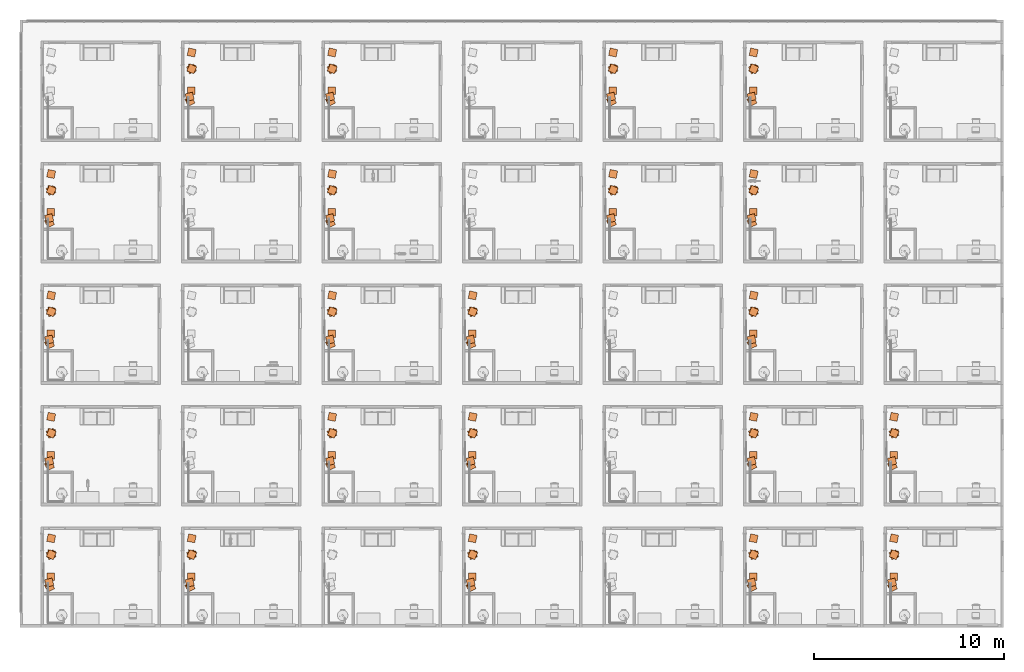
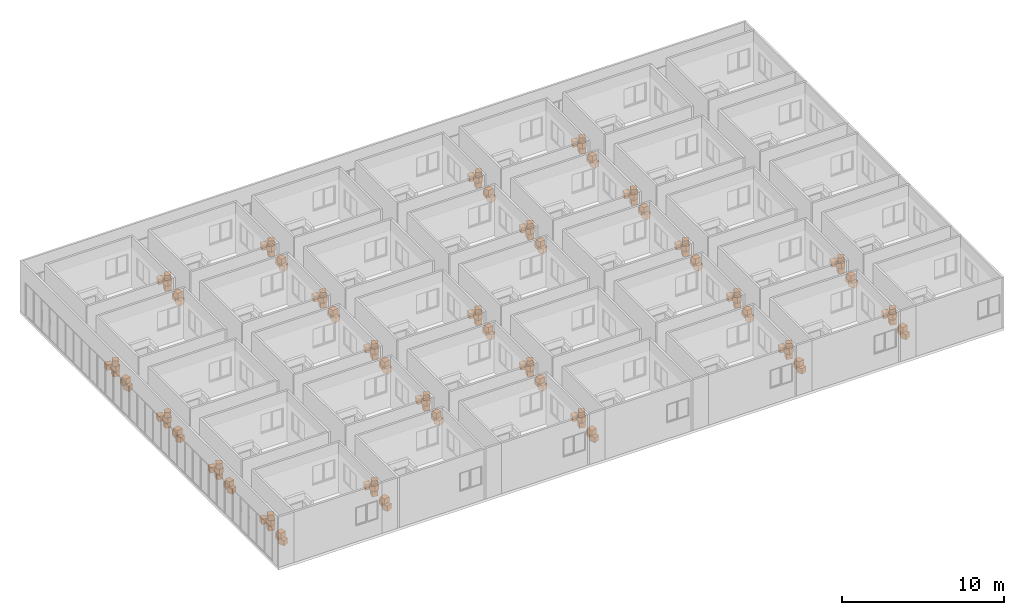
# One storey, part 71 of 71: 22 proxies.
"""IFC4 building model written with IfcOpenShell, lengths in centimetres."""

from ifc_helpers import new_model, entity, si_unit, converted_unit, derived_unit, direction, frame, origin, place, context, subcontext, project, spatial, indexed_curve, outline, extrude, source, transform, mapped, material, type_object, type_shapes, element, save


model = new_model("IFC4")

# Units and contexts
model_context = context("Model", 3, precision=0.001, world=origin(), true_north=direction((6.123233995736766e-17, 1.0)))
body_context = subcontext(model_context, "Body", "Model", "MODEL_VIEW")
ifc_project = project(units=[si_unit("LENGTHUNIT", "METRE", prefix="CENTI"), si_unit("AREAUNIT", "SQUARE_METRE"), si_unit("VOLUMEUNIT", "CUBIC_METRE"), derived_unit("THERMALTRANSMITTANCEUNIT", [(si_unit("MASSUNIT", "GRAM", prefix="KILO"), 1), (si_unit("THERMODYNAMICTEMPERATUREUNIT", "KELVIN"), -1), (si_unit("TIMEUNIT", "SECOND"), -3)]), converted_unit("PLANEANGLEUNIT", "DEGREE", entity("IfcPlaneAngleMeasure", 0.017453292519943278), si_unit("PLANEANGLEUNIT", "RADIAN"), dimensions=[0, 0, 0, 0, 0, 0, 0]), derived_unit("MASSDENSITYUNIT", [(si_unit("MASSUNIT", "GRAM", prefix="KILO"), 1), (si_unit("LENGTHUNIT", "METRE"), -3)]), derived_unit("VAPORPERMEABILITYUNIT", [(si_unit("LENGTHUNIT", "METRE"), -1), (si_unit("TIMEUNIT", "SECOND"), 1)]), derived_unit("USERDEFINED", [(si_unit("MASSUNIT", "GRAM", prefix="KILO"), 1), (si_unit("TIMEUNIT", "SECOND"), -3), (si_unit("LENGTHUNIT", "METRE"), 3), (si_unit("ELECTRICCURRENTUNIT", "AMPERE"), -2)]), derived_unit("SPECIFICHEATCAPACITYUNIT", [(si_unit("THERMODYNAMICTEMPERATUREUNIT", "KELVIN"), -1), (si_unit("LENGTHUNIT", "METRE"), 2), (si_unit("TIMEUNIT", "SECOND"), -2)]), derived_unit("THERMALCONDUCTANCEUNIT", [(si_unit("MASSUNIT", "GRAM", prefix="KILO"), 1), (si_unit("THERMODYNAMICTEMPERATUREUNIT", "KELVIN"), -1), (si_unit("TIMEUNIT", "SECOND"), -3), (si_unit("LENGTHUNIT", "METRE"), 1)]), si_unit("PRESSUREUNIT", "PASCAL"), derived_unit("MODULUSOFELASTICITYUNIT", [(si_unit("MASSUNIT", "GRAM", prefix="KILO"), 1), (si_unit("LENGTHUNIT", "METRE"), -1), (si_unit("TIMEUNIT", "SECOND"), -2)]), derived_unit("THERMALEXPANSIONCOEFFICIENTUNIT", [(si_unit("THERMODYNAMICTEMPERATUREUNIT", "KELVIN"), -1)])], contexts=[model_context])

# Site, building, storey, space
site_placement = place(None, origin())
site = spatial("IfcSite", under=ifc_project, at=site_placement, Name="Default", CompositionType="ELEMENT")
building_placement = place(site_placement, origin())
building = spatial("IfcBuilding", under=site, at=building_placement, Name="IDS Escape Game Building", CompositionType="ELEMENT")
storey_placement = place(building_placement, frame((0.0, 0.0, 1200.0)))
storey = spatial("IfcBuildingStorey", under=building, at=storey_placement, Name="03_Third Floor", CompositionType="ELEMENT", Elevation=1200.0)
space_1_placement = place(storey_placement, origin())
space_1 = spatial("IfcSpace", under=storey, at=space_1_placement, Name="112", CompositionType="ELEMENT", PredefinedType="NOTDEFINED")

# Proxy
ifc_material = material(Name="<Unnamed>")
building_element_proxy_type = type_object("IfcBuildingElementProxyType", Name="Moving Boxes:Moving Boxes", PredefinedType="NOTDEFINED", material=ifc_material)
shared_shape = source(origin(), body_context, "Body", "SweptSolid", [
    extrude(outline(indexed_curve([(-20.0, -20.0), (20.0, -20.0), (20.0, 20.0), (-20.0, 20.0), (-20.0, -20.0)], self_intersect=False)), frame((-129.4888892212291, -20.0, 0.0), z_axis=(0.0, 0.0, 1.0), x_axis=(-1.0, 0.0, 0.0)), (0.0, 0.0, 1.0), 40.0),
    extrude(outline(indexed_curve([(-20.0, -20.0), (20.00000000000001, -19.999999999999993), (20.0, 20.0), (-20.00000000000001, 19.999999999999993), (-20.0, -20.0)], self_intersect=False)), frame((-75.45547766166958, -26.102318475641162, 0.0), z_axis=(0.0, 0.0, 1.0), x_axis=(-0.906307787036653, -0.422618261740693, 0.0)), (0.0, 0.0, 1.0), 39.99999999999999),
    extrude(outline(indexed_curve([(-20.00000000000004, -19.999999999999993), (20.00000000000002, -19.999999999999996), (20.000000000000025, 19.999999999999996), (-20.000000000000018, 20.000000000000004), (-20.00000000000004, -19.999999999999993)], self_intersect=False)), frame((-98.66287120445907, -27.650524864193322, 40.0), z_axis=(0.0, 0.0, 1.0), x_axis=(-0.970295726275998, -0.24192189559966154, 0.0)), (0.0, 0.0, 1.0), 39.99999999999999),
    extrude(outline(indexed_curve([(-20.000000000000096, -20.00000000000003), (20.000000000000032, -20.000000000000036), (20.000000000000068, 20.000000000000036), (-20.00000000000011, 20.00000000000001), (-20.000000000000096, -20.00000000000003)], self_intersect=False)), frame((-247.73174870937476, -17.18153286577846, 0.0), z_axis=(0.0, 0.0, 1.0), x_axis=(-0.9794785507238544, 0.2015484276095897, 0.0)), (0.0, 0.0, 1.0), 39.999999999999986),
    extrude(outline(indexed_curve([(-20.00000000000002, -20.00000000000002), (20.00000000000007, -20.00000000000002), (20.000000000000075, 20.00000000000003), (-20.00000000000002, 20.00000000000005), (-20.00000000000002, -20.00000000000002)], self_intersect=False)), frame((-331.1917744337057, -17.18153286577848, 0.0), z_axis=(0.0, 0.0, 1.0), x_axis=(-0.9794785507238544, 0.2015484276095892, 0.0)), (0.0, 0.0, 1.0), 40.0),
    extrude(outline(indexed_curve([(-20.000000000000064, -20.000000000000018), (20.0, -20.000000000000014), (20.000000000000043, 20.000000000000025), (-20.00000000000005, 20.000000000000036), (-20.000000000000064, -20.000000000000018)], self_intersect=False)), frame((-244.74820724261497, -18.001176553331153, 40.0), z_axis=(0.0, 0.0, 1.0), x_axis=(-0.9247289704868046, -0.38062623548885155, 0.0)), (0.0, 0.0, 1.0), 40.0),
    extrude(outline(indexed_curve([(-20.000000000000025, -20.000000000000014), (20.000000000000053, -20.00000000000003), (20.000000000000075, 20.000000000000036), (-20.000000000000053, 20.000000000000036), (-20.000000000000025, -20.000000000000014)], self_intersect=False)), frame((-245.38613222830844, -16.613316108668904, 80.0), z_axis=(0.0, 0.0, 1.0), x_axis=(-0.9106045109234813, 0.41327887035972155, 0.0)), (0.0, 0.0, 1.0), 39.99999999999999),
])
type_shapes(building_element_proxy_type, [shared_shape])
proxy_1_placement = place(space_1_placement, frame((4492.0, 135.0, 0.0), z_axis=(0.0, 0.0, 1.0), x_axis=(0.0, -1.0, 0.0)))
element("IfcBuildingElementProxy", 1, at=proxy_1_placement, inside=space_1, type_object=building_element_proxy_type, material=ifc_material, Name="Moving Boxes:Moving Boxes", ObjectType="Moving Boxes:Moving Boxes", PredefinedType="NOTDEFINED", context=body_context, shape_type="MappedRepresentation", body=[
    mapped(shared_shape, transform((0.0, 0.0, 0.0), scale=1.0)),
])

# Space
space_2_placement = place(storey_placement, origin())
space_2 = spatial("IfcSpace", under=storey, at=space_2_placement, Name="119", CompositionType="ELEMENT", PredefinedType="NOTDEFINED")

# Proxy
proxy_2_placement = place(space_2_placement, frame((4492.0, 773.0, 0.0), z_axis=(0.0, 0.0, 1.0), x_axis=(0.0, -1.0, 0.0)))
element("IfcBuildingElementProxy", 2, at=proxy_2_placement, inside=space_2, type_object=building_element_proxy_type, material=ifc_material, Name="Moving Boxes:Moving Boxes", ObjectType="Moving Boxes:Moving Boxes", PredefinedType="NOTDEFINED", context=body_context, shape_type="MappedRepresentation", body=[
    mapped(shared_shape, transform((0.0, 0.0, 0.0), scale=1.0)),
])

# Space
space_3_placement = place(storey_placement, origin())
space_3 = spatial("IfcSpace", under=storey, at=space_3_placement, Name="111", CompositionType="ELEMENT", PredefinedType="NOTDEFINED")

# Proxy
proxy_3_placement = place(space_3_placement, frame((3754.0, 135.0, 0.0), z_axis=(0.0, 0.0, 1.0), x_axis=(0.0, -1.0, 0.0)))
element("IfcBuildingElementProxy", 3, at=proxy_3_placement, inside=space_3, type_object=building_element_proxy_type, material=ifc_material, Name="Moving Boxes:Moving Boxes", ObjectType="Moving Boxes:Moving Boxes", PredefinedType="NOTDEFINED", context=body_context, shape_type="MappedRepresentation", body=[
    mapped(shared_shape, transform((0.0, 0.0, 0.0), scale=1.0)),
])

# Space
space_4_placement = place(storey_placement, origin())
space_4 = spatial("IfcSpace", under=storey, at=space_4_placement, Name="118", CompositionType="ELEMENT", PredefinedType="NOTDEFINED")

# Proxy
proxy_4_placement = place(space_4_placement, frame((3754.0, 773.0, 0.0), z_axis=(0.0, 0.0, 1.0), x_axis=(0.0, -1.0, 0.0)))
element("IfcBuildingElementProxy", 4, at=proxy_4_placement, inside=space_4, type_object=building_element_proxy_type, material=ifc_material, Name="Moving Boxes:Moving Boxes", ObjectType="Moving Boxes:Moving Boxes", PredefinedType="NOTDEFINED", context=body_context, shape_type="MappedRepresentation", body=[
    mapped(shared_shape, transform((0.0, 0.0, 0.0), scale=1.0)),
])

# Space
space_5_placement = place(storey_placement, origin())
space_5 = spatial("IfcSpace", under=storey, at=space_5_placement, Name="125", CompositionType="ELEMENT", PredefinedType="NOTDEFINED")

# Proxy
proxy_5_placement = place(space_5_placement, frame((3754.0, 1411.0, 0.0), z_axis=(0.0, 0.0, 1.0), x_axis=(0.0, -1.0, 0.0)))
element("IfcBuildingElementProxy", 5, at=proxy_5_placement, inside=space_5, type_object=building_element_proxy_type, material=ifc_material, Name="Moving Boxes:Moving Boxes", ObjectType="Moving Boxes:Moving Boxes", PredefinedType="NOTDEFINED", context=body_context, shape_type="MappedRepresentation", body=[
    mapped(shared_shape, transform((0.0, 0.0, 0.0), scale=1.0)),
])

# Space
space_6_placement = place(storey_placement, origin())
space_6 = spatial("IfcSpace", under=storey, at=space_6_placement, Name="132", CompositionType="ELEMENT", PredefinedType="NOTDEFINED")

# Proxy
proxy_6_placement = place(space_6_placement, frame((3754.0, 2049.0, 0.0), z_axis=(0.0, 0.0, 1.0), x_axis=(0.0, -1.0, 0.0)))
element("IfcBuildingElementProxy", 6, at=proxy_6_placement, inside=space_6, type_object=building_element_proxy_type, material=ifc_material, Name="Moving Boxes:Moving Boxes", ObjectType="Moving Boxes:Moving Boxes", PredefinedType="NOTDEFINED", context=body_context, shape_type="MappedRepresentation", body=[
    mapped(shared_shape, transform((0.0, 0.0, 0.0), scale=1.0)),
])

# Space
space_7_placement = place(storey_placement, origin())
space_7 = spatial("IfcSpace", under=storey, at=space_7_placement, Name="139", CompositionType="ELEMENT", PredefinedType="NOTDEFINED")

# Proxy
proxy_7_placement = place(space_7_placement, frame((3754.0, 2687.0, 0.0), z_axis=(0.0, 0.0, 1.0), x_axis=(0.0, -1.0, 0.0)))
element("IfcBuildingElementProxy", 7, at=proxy_7_placement, inside=space_7, type_object=building_element_proxy_type, material=ifc_material, Name="Moving Boxes:Moving Boxes", ObjectType="Moving Boxes:Moving Boxes", PredefinedType="NOTDEFINED", context=body_context, shape_type="MappedRepresentation", body=[
    mapped(shared_shape, transform((0.0, 0.0, 0.0), scale=1.0)),
])

# Space
space_8_placement = place(storey_placement, origin())
space_8 = spatial("IfcSpace", under=storey, at=space_8_placement, Name="131", CompositionType="ELEMENT", PredefinedType="NOTDEFINED")

# Proxy
proxy_8_placement = place(space_8_placement, frame((3016.0, 2049.0, 0.0), z_axis=(0.0, 0.0, 1.0), x_axis=(0.0, -1.0, 0.0)))
element("IfcBuildingElementProxy", 8, at=proxy_8_placement, inside=space_8, type_object=building_element_proxy_type, material=ifc_material, Name="Moving Boxes:Moving Boxes", ObjectType="Moving Boxes:Moving Boxes", PredefinedType="NOTDEFINED", context=body_context, shape_type="MappedRepresentation", body=[
    mapped(shared_shape, transform((0.0, 0.0, 0.0), scale=1.0)),
])

# Space
space_9_placement = place(storey_placement, origin())
space_9 = spatial("IfcSpace", under=storey, at=space_9_placement, Name="138", CompositionType="ELEMENT", PredefinedType="NOTDEFINED")

# Proxy
proxy_9_placement = place(space_9_placement, frame((3016.0, 2687.0, 0.0), z_axis=(0.0, 0.0, 1.0), x_axis=(0.0, -1.0, 0.0)))
element("IfcBuildingElementProxy", 9, at=proxy_9_placement, inside=space_9, type_object=building_element_proxy_type, material=ifc_material, Name="Moving Boxes:Moving Boxes", ObjectType="Moving Boxes:Moving Boxes", PredefinedType="NOTDEFINED", context=body_context, shape_type="MappedRepresentation", body=[
    mapped(shared_shape, transform((0.0, 0.0, 0.0), scale=1.0)),
])

# Space
space_10_placement = place(storey_placement, origin())
space_10 = spatial("IfcSpace", under=storey, at=space_10_placement, Name="109", CompositionType="ELEMENT", PredefinedType="NOTDEFINED")

# Proxy
proxy_10_placement = place(space_10_placement, frame((2278.0, 135.0, 0.0), z_axis=(0.0, 0.0, 1.0), x_axis=(0.0, -1.0, 0.0)))
element("IfcBuildingElementProxy", 10, at=proxy_10_placement, inside=space_10, type_object=building_element_proxy_type, material=ifc_material, Name="Moving Boxes:Moving Boxes", ObjectType="Moving Boxes:Moving Boxes", PredefinedType="NOTDEFINED", context=body_context, shape_type="MappedRepresentation", body=[
    mapped(shared_shape, transform((0.0, 0.0, 0.0), scale=1.0)),
])

# Space
space_11_placement = place(storey_placement, origin())
space_11 = spatial("IfcSpace", under=storey, at=space_11_placement, Name="116", CompositionType="ELEMENT", PredefinedType="NOTDEFINED")

# Proxy
proxy_11_placement = place(space_11_placement, frame((2278.0, 773.0, 0.0), z_axis=(0.0, 0.0, 1.0), x_axis=(0.0, -1.0, 0.0)))
element("IfcBuildingElementProxy", 11, at=proxy_11_placement, inside=space_11, type_object=building_element_proxy_type, material=ifc_material, Name="Moving Boxes:Moving Boxes", ObjectType="Moving Boxes:Moving Boxes", PredefinedType="NOTDEFINED", context=body_context, shape_type="MappedRepresentation", body=[
    mapped(shared_shape, transform((0.0, 0.0, 0.0), scale=1.0)),
])

# Space
space_12_placement = place(storey_placement, origin())
space_12 = spatial("IfcSpace", under=storey, at=space_12_placement, Name="123", CompositionType="ELEMENT", PredefinedType="NOTDEFINED")

# Proxy
proxy_12_placement = place(space_12_placement, frame((2278.0, 1411.0, 0.0), z_axis=(0.0, 0.0, 1.0), x_axis=(0.0, -1.0, 0.0)))
element("IfcBuildingElementProxy", 12, at=proxy_12_placement, inside=space_12, type_object=building_element_proxy_type, material=ifc_material, Name="Moving Boxes:Moving Boxes", ObjectType="Moving Boxes:Moving Boxes", PredefinedType="NOTDEFINED", context=body_context, shape_type="MappedRepresentation", body=[
    mapped(shared_shape, transform((0.0, 0.0, 0.0), scale=1.0)),
])

# Space
space_13_placement = place(storey_placement, origin())
space_13 = spatial("IfcSpace", under=storey, at=space_13_placement, Name="115", CompositionType="ELEMENT", PredefinedType="NOTDEFINED")

# Proxy
proxy_13_placement = place(space_13_placement, frame((1540.0, 773.0, 0.0), z_axis=(0.0, 0.0, 1.0), x_axis=(0.0, -1.0, 0.0)))
element("IfcBuildingElementProxy", 13, at=proxy_13_placement, inside=space_13, type_object=building_element_proxy_type, material=ifc_material, Name="Moving Boxes:Moving Boxes", ObjectType="Moving Boxes:Moving Boxes", PredefinedType="NOTDEFINED", context=body_context, shape_type="MappedRepresentation", body=[
    mapped(shared_shape, transform((0.0, 0.0, 0.0), scale=1.0)),
])

# Space
space_14_placement = place(storey_placement, origin())
space_14 = spatial("IfcSpace", under=storey, at=space_14_placement, Name="122", CompositionType="ELEMENT", PredefinedType="NOTDEFINED")

# Proxy
proxy_14_placement = place(space_14_placement, frame((1540.0, 1411.0, 0.0), z_axis=(0.0, 0.0, 1.0), x_axis=(0.0, -1.0, 0.0)))
element("IfcBuildingElementProxy", 14, at=proxy_14_placement, inside=space_14, type_object=building_element_proxy_type, material=ifc_material, Name="Moving Boxes:Moving Boxes", ObjectType="Moving Boxes:Moving Boxes", PredefinedType="NOTDEFINED", context=body_context, shape_type="MappedRepresentation", body=[
    mapped(shared_shape, transform((0.0, 0.0, 0.0), scale=1.0)),
])

# Space
space_15_placement = place(storey_placement, origin())
space_15 = spatial("IfcSpace", under=storey, at=space_15_placement, Name="129", CompositionType="ELEMENT", PredefinedType="NOTDEFINED")

# Proxy
proxy_15_placement = place(space_15_placement, frame((1540.0, 2049.0, 0.0), z_axis=(0.0, 0.0, 1.0), x_axis=(0.0, -1.0, 0.0)))
element("IfcBuildingElementProxy", 15, at=proxy_15_placement, inside=space_15, type_object=building_element_proxy_type, material=ifc_material, Name="Moving Boxes:Moving Boxes", ObjectType="Moving Boxes:Moving Boxes", PredefinedType="NOTDEFINED", context=body_context, shape_type="MappedRepresentation", body=[
    mapped(shared_shape, transform((0.0, 0.0, 0.0), scale=1.0)),
])

# Space
space_16_placement = place(storey_placement, origin())
space_16 = spatial("IfcSpace", under=storey, at=space_16_placement, Name="136", CompositionType="ELEMENT", PredefinedType="NOTDEFINED")

# Proxy
proxy_16_placement = place(space_16_placement, frame((1540.0, 2687.0, 0.0), z_axis=(0.0, 0.0, 1.0), x_axis=(0.0, -1.0, 0.0)))
element("IfcBuildingElementProxy", 16, at=proxy_16_placement, inside=space_16, type_object=building_element_proxy_type, material=ifc_material, Name="Moving Boxes:Moving Boxes", ObjectType="Moving Boxes:Moving Boxes", PredefinedType="NOTDEFINED", context=body_context, shape_type="MappedRepresentation", body=[
    mapped(shared_shape, transform((0.0, 0.0, 0.0), scale=1.0)),
])

# Space
space_17_placement = place(storey_placement, origin())
space_17 = spatial("IfcSpace", under=storey, at=space_17_placement, Name="107", CompositionType="ELEMENT", PredefinedType="NOTDEFINED")

# Proxy
proxy_17_placement = place(space_17_placement, frame((802.0, 135.0, 0.0), z_axis=(0.0, 0.0, 1.0), x_axis=(0.0, -1.0, 0.0)))
element("IfcBuildingElementProxy", 17, at=proxy_17_placement, inside=space_17, type_object=building_element_proxy_type, material=ifc_material, Name="Moving Boxes:Moving Boxes", ObjectType="Moving Boxes:Moving Boxes", PredefinedType="NOTDEFINED", context=body_context, shape_type="MappedRepresentation", body=[
    mapped(shared_shape, transform((0.0, 0.0, 0.0), scale=1.0)),
])

# Space
space_18_placement = place(storey_placement, origin())
space_18 = spatial("IfcSpace", under=storey, at=space_18_placement, Name="135", CompositionType="ELEMENT", PredefinedType="NOTDEFINED")

# Proxy
proxy_18_placement = place(space_18_placement, frame((802.0, 2687.0, 0.0), z_axis=(0.0, 0.0, 1.0), x_axis=(0.0, -1.0, 0.0)))
element("IfcBuildingElementProxy", 18, at=proxy_18_placement, inside=space_18, type_object=building_element_proxy_type, material=ifc_material, Name="Moving Boxes:Moving Boxes", ObjectType="Moving Boxes:Moving Boxes", PredefinedType="NOTDEFINED", context=body_context, shape_type="MappedRepresentation", body=[
    mapped(shared_shape, transform((0.0, 0.0, 0.0), scale=1.0)),
])

# Space
space_19_placement = place(storey_placement, origin())
space_19 = spatial("IfcSpace", under=storey, at=space_19_placement, Name="106", CompositionType="ELEMENT", PredefinedType="NOTDEFINED")

# Proxy
proxy_19_placement = place(space_19_placement, frame((64.0, 135.0, 0.0), z_axis=(0.0, 0.0, 1.0), x_axis=(0.0, -1.0, 0.0)))
element("IfcBuildingElementProxy", 19, at=proxy_19_placement, inside=space_19, type_object=building_element_proxy_type, material=ifc_material, Name="Moving Boxes:Moving Boxes", ObjectType="Moving Boxes:Moving Boxes", PredefinedType="NOTDEFINED", context=body_context, shape_type="MappedRepresentation", body=[
    mapped(shared_shape, transform((0.0, 0.0, 0.0), scale=1.0)),
])

# Space
space_20_placement = place(storey_placement, origin())
space_20 = spatial("IfcSpace", under=storey, at=space_20_placement, Name="113", CompositionType="ELEMENT", PredefinedType="NOTDEFINED")

# Proxy
proxy_20_placement = place(space_20_placement, frame((64.0, 773.0, 0.0), z_axis=(0.0, 0.0, 1.0), x_axis=(0.0, -1.0, 0.0)))
element("IfcBuildingElementProxy", 20, at=proxy_20_placement, inside=space_20, type_object=building_element_proxy_type, material=ifc_material, Name="Moving Boxes:Moving Boxes", ObjectType="Moving Boxes:Moving Boxes", PredefinedType="NOTDEFINED", context=body_context, shape_type="MappedRepresentation", body=[
    mapped(shared_shape, transform((0.0, 0.0, 0.0), scale=1.0)),
])

# Space
space_21_placement = place(storey_placement, origin())
space_21 = spatial("IfcSpace", under=storey, at=space_21_placement, Name="120", CompositionType="ELEMENT", PredefinedType="NOTDEFINED")

# Proxy
proxy_21_placement = place(space_21_placement, frame((64.0, 1411.0, 0.0), z_axis=(0.0, 0.0, 1.0), x_axis=(0.0, -1.0, 0.0)))
element("IfcBuildingElementProxy", 21, at=proxy_21_placement, inside=space_21, type_object=building_element_proxy_type, material=ifc_material, Name="Moving Boxes:Moving Boxes", ObjectType="Moving Boxes:Moving Boxes", PredefinedType="NOTDEFINED", context=body_context, shape_type="MappedRepresentation", body=[
    mapped(shared_shape, transform((0.0, 0.0, 0.0), scale=1.0)),
])

# Space
space_22_placement = place(storey_placement, origin())
space_22 = spatial("IfcSpace", under=storey, at=space_22_placement, Name="127", CompositionType="ELEMENT", PredefinedType="NOTDEFINED")

# Proxy
proxy_22_placement = place(space_22_placement, frame((64.0, 2049.0, 0.0), z_axis=(0.0, 0.0, 1.0), x_axis=(0.0, -1.0, 0.0)))
element("IfcBuildingElementProxy", 22, at=proxy_22_placement, inside=space_22, type_object=building_element_proxy_type, material=ifc_material, Name="Moving Boxes:Moving Boxes", ObjectType="Moving Boxes:Moving Boxes", PredefinedType="NOTDEFINED", context=body_context, shape_type="MappedRepresentation", body=[
    mapped(shared_shape, transform((0.0, 0.0, 0.0), scale=1.0)),
])

save(model, "model.ifc")
